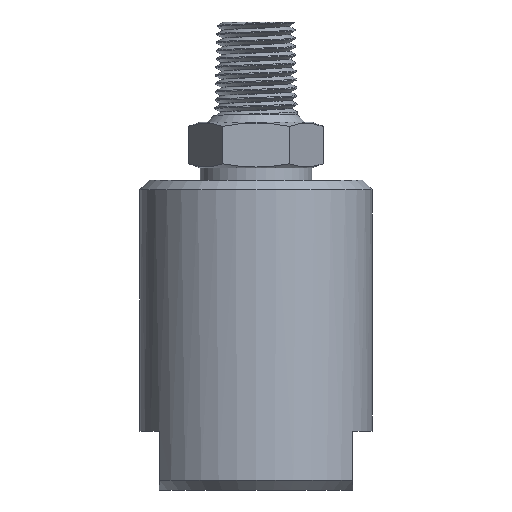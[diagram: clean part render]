
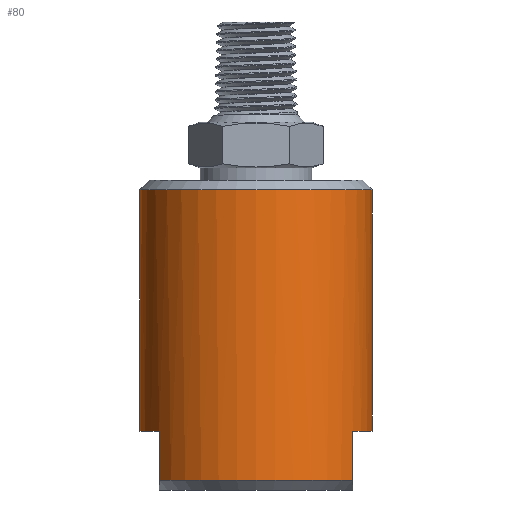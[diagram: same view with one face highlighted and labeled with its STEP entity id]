
A CAD part, left-side view. The second image highlights one B-rep face of the part: STEP entity #80.
In plain terms, the highlighted cylindrical face has radius 19.05 mm (diameter 38.1 mm), a partial arc.
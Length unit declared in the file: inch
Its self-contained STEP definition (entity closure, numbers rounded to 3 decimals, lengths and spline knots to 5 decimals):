
#49 = B_SPLINE_CURVE_WITH_KNOTS ( 'NONE', 3,
 ( #5494, #5493, #5504, #5505, #5506, #5507, #5508, #5509, #5510, #5511, #5512, #5513, #5514, #5515, #5516, #5517 ),
 .UNSPECIFIED., .F., .F.,
 ( 4, 2, 2, 2, 2, 2, 2, 4 ),
 ( 0., 0.00031, 0.00062, 0.00123, 0.00154, 0.00185, 0.00215, 0.00246 ),
 .UNSPECIFIED. ) ;
#80 = ADVANCED_FACE ( 'NONE', ( #2958 ), #2957, .T. ) ;
#144 = EDGE_CURVE ( 'NONE', #10898, #10903, #2977, .T. ) ;
#145 = EDGE_CURVE ( 'NONE', #10966, #10991, #2975, .T. ) ;
#876 = CARTESIAN_POINT ( 'NONE',  ( 0., -0.75, -2.642 ) ) ;
#878 = CARTESIAN_POINT ( 'NONE',  ( -0.41458, -0.625, -2.642 ) ) ;
#884 = CARTESIAN_POINT ( 'NONE',  ( -0.41458, 0.625, -2.96 ) ) ;
#909 = CARTESIAN_POINT ( 'NONE',  ( -0.41458, -0.625, -2.96 ) ) ;
#921 = CARTESIAN_POINT ( 'NONE',  ( 0., -0.75, -1.964 ) ) ;
#922 = CARTESIAN_POINT ( 'NONE',  ( -0.41458, 0.625, -2.642 ) ) ;
#2956 = DIRECTION ( 'NONE',  ( 0., 0., 1. ) ) ;
#2957 = CYLINDRICAL_SURFACE ( 'NONE', #3084, 0.75 ) ;
#2958 = FACE_OUTER_BOUND ( 'NONE', #10088, .T. ) ;
#2959 = CARTESIAN_POINT ( 'NONE',  ( 0., 0., -1.12511 ) ) ;
#2961 = DIRECTION ( 'NONE',  ( 0., -1., 0. ) ) ;
#2969 = AXIS2_PLACEMENT_3D ( 'NONE', #4496, #4497, #4498 ) ;
#2974 = AXIS2_PLACEMENT_3D ( 'NONE', #4491, #4492, #4493 ) ;
#2975 = CIRCLE ( 'NONE', #2969, 0.75 ) ;
#2977 = CIRCLE ( 'NONE', #2974, 0.75 ) ;
#3015 = EDGE_CURVE ( 'NONE', #10960, #10991, #8922, .T. ) ;
#3084 = AXIS2_PLACEMENT_3D ( 'NONE', #2959, #2956, #2961 ) ;
#3159 = EDGE_CURVE ( 'NONE', #10929, #10903, #9090, .T. ) ;
#3169 = EDGE_CURVE ( 'NONE', #10958, #11003, #9113, .T. ) ;
#3208 = EDGE_CURVE ( 'NONE', #10901, #10898, #3221, .T. ) ;
#3221 = LINE ( 'NONE', #3222, #8767 ) ;
#3222 = CARTESIAN_POINT ( 'NONE',  ( 0., -0.75, -1.12511 ) ) ;
#3223 = DIRECTION ( 'NONE',  ( 0., 0., 1. ) ) ;
#3537 = CARTESIAN_POINT ( 'NONE',  ( 0., 0., -2.642 ) ) ;
#3538 = DIRECTION ( 'NONE',  ( 0., 0., -1. ) ) ;
#3539 = DIRECTION ( 'NONE',  ( 1., 0., 0. ) ) ;
#3545 = LINE ( 'NONE', #3546, #8819 ) ;
#3546 = CARTESIAN_POINT ( 'NONE',  ( -0.41458, 0.625, -2.642 ) ) ;
#3547 = DIRECTION ( 'NONE',  ( 0., 0., -1. ) ) ;
#4491 = CARTESIAN_POINT ( 'NONE',  ( 0., 0., -1.084 ) ) ;
#4492 = DIRECTION ( 'NONE',  ( 0., 0., -1. ) ) ;
#4493 = DIRECTION ( 'NONE',  ( 0., 1., 0. ) ) ;
#4496 = CARTESIAN_POINT ( 'NONE',  ( 0., 0., -2.96 ) ) ;
#4497 = DIRECTION ( 'NONE',  ( 0., 0., 1. ) ) ;
#4498 = DIRECTION ( 'NONE',  ( 0., -1., 0. ) ) ;
#4617 = EDGE_CURVE ( 'NONE', #11004, #10929, #8722, .T. ) ;
#4621 = EDGE_CURVE ( 'NONE', #11004, #10966, #3545, .T. ) ;
#4623 = EDGE_CURVE ( 'NONE', #10958, #10960, #8693, .T. ) ;
#5493 = CARTESIAN_POINT ( 'NONE',  ( -0.0041, -0.75, -1.964 ) ) ;
#5494 = CARTESIAN_POINT ( 'NONE',  ( 0., -0.75, -1.964 ) ) ;
#5504 = CARTESIAN_POINT ( 'NONE',  ( -0.00812, -0.74997, -1.96319 ) ) ;
#5505 = CARTESIAN_POINT ( 'NONE',  ( -0.01563, -0.74985, -1.96008 ) ) ;
#5506 = CARTESIAN_POINT ( 'NONE',  ( -0.01906, -0.74976, -1.95778 ) ) ;
#5507 = CARTESIAN_POINT ( 'NONE',  ( -0.02764, -0.74951, -1.9492 ) ) ;
#5508 = CARTESIAN_POINT ( 'NONE',  ( -0.031, -0.74936, -1.9411 ) ) ;
#5509 = CARTESIAN_POINT ( 'NONE',  ( -0.031, -0.74936, -1.92897 ) ) ;
#5510 = CARTESIAN_POINT ( 'NONE',  ( -0.0302, -0.74939, -1.9249 ) ) ;
#5511 = CARTESIAN_POINT ( 'NONE',  ( -0.02709, -0.74951, -1.9174 ) ) ;
#5512 = CARTESIAN_POINT ( 'NONE',  ( -0.02482, -0.74959, -1.91398 ) ) ;
#5513 = CARTESIAN_POINT ( 'NONE',  ( -0.01903, -0.74976, -1.90819 ) ) ;
#5514 = CARTESIAN_POINT ( 'NONE',  ( -0.01562, -0.74985, -1.90592 ) ) ;
#5515 = CARTESIAN_POINT ( 'NONE',  ( -0.00811, -0.74997, -1.9028 ) ) ;
#5516 = CARTESIAN_POINT ( 'NONE',  ( -0.00405, -0.75, -1.902 ) ) ;
#5517 = CARTESIAN_POINT ( 'NONE',  ( 0., -0.75, -1.902 ) ) ;
#6136 = CARTESIAN_POINT ( 'NONE',  ( 0., -0.75, -1.084 ) ) ;
#6145 = CARTESIAN_POINT ( 'NONE',  ( 0., -0.75, -1.902 ) ) ;
#6151 = CARTESIAN_POINT ( 'NONE',  ( 0., 0.75, -1.084 ) ) ;
#6229 = CARTESIAN_POINT ( 'NONE',  ( 0., 0.75, -2.642 ) ) ;
#6445 = ORIENTED_EDGE ( 'NONE', *, *, #3208, .T. ) ;
#6446 = ORIENTED_EDGE ( 'NONE', *, *, #4623, .F. ) ;
#6454 = ORIENTED_EDGE ( 'NONE', *, *, #144, .T. ) ;
#6461 = ORIENTED_EDGE ( 'NONE', *, *, #4617, .F. ) ;
#6473 = ORIENTED_EDGE ( 'NONE', *, *, #3015, .F. ) ;
#6480 = ORIENTED_EDGE ( 'NONE', *, *, #10462, .T. ) ;
#6493 = ORIENTED_EDGE ( 'NONE', *, *, #3169, .T. ) ;
#6494 = ORIENTED_EDGE ( 'NONE', *, *, #145, .T. ) ;
#6496 = ORIENTED_EDGE ( 'NONE', *, *, #3159, .F. ) ;
#6499 = ORIENTED_EDGE ( 'NONE', *, *, #4621, .T. ) ;
#8665 = AXIS2_PLACEMENT_3D ( 'NONE', #9599, #9600, #9601 ) ;
#8693 = CIRCLE ( 'NONE', #8665, 0.75 ) ;
#8697 = VECTOR ( 'NONE', #9146, 39.37008 ) ;
#8713 = VECTOR ( 'NONE', #9092, 39.37008 ) ;
#8722 = CIRCLE ( 'NONE', #8832, 0.75 ) ;
#8733 = VECTOR ( 'NONE', #8924, 39.37008 ) ;
#8767 = VECTOR ( 'NONE', #3223, 39.37008 ) ;
#8819 = VECTOR ( 'NONE', #3547, 39.37008 ) ;
#8832 = AXIS2_PLACEMENT_3D ( 'NONE', #3537, #3538, #3539 ) ;
#8922 = LINE ( 'NONE', #8923, #8733 ) ;
#8923 = CARTESIAN_POINT ( 'NONE',  ( -0.41458, -0.625, -2.642 ) ) ;
#8924 = DIRECTION ( 'NONE',  ( 0., 0., -1. ) ) ;
#9090 = LINE ( 'NONE', #9091, #8713 ) ;
#9091 = CARTESIAN_POINT ( 'NONE',  ( 0., 0.75, -1.12511 ) ) ;
#9092 = DIRECTION ( 'NONE',  ( 0., 0., 1. ) ) ;
#9113 = LINE ( 'NONE', #9145, #8697 ) ;
#9145 = CARTESIAN_POINT ( 'NONE',  ( 0., -0.75, -1.12511 ) ) ;
#9146 = DIRECTION ( 'NONE',  ( 0., 0., 1. ) ) ;
#9599 = CARTESIAN_POINT ( 'NONE',  ( 0., 0., -2.642 ) ) ;
#9600 = DIRECTION ( 'NONE',  ( 0., 0., -1. ) ) ;
#9601 = DIRECTION ( 'NONE',  ( 1., 0., 0. ) ) ;
#10088 = EDGE_LOOP ( 'NONE', ( #6496, #6461, #6499, #6494, #6473, #6446, #6493, #6480, #6445, #6454 ) ) ;
#10462 = EDGE_CURVE ( 'NONE', #11003, #10901, #49, .T. ) ;
#10898 = VERTEX_POINT ( 'NONE', #6136 ) ;
#10901 = VERTEX_POINT ( 'NONE', #6145 ) ;
#10903 = VERTEX_POINT ( 'NONE', #6151 ) ;
#10929 = VERTEX_POINT ( 'NONE', #6229 ) ;
#10958 = VERTEX_POINT ( 'NONE', #876 ) ;
#10960 = VERTEX_POINT ( 'NONE', #878 ) ;
#10966 = VERTEX_POINT ( 'NONE', #884 ) ;
#10991 = VERTEX_POINT ( 'NONE', #909 ) ;
#11003 = VERTEX_POINT ( 'NONE', #921 ) ;
#11004 = VERTEX_POINT ( 'NONE', #922 ) ;
